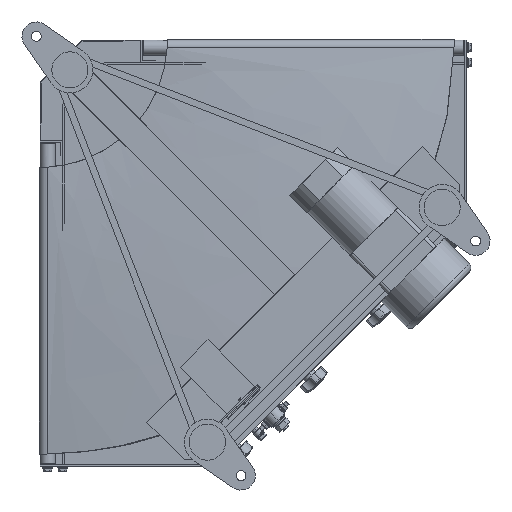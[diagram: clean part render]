
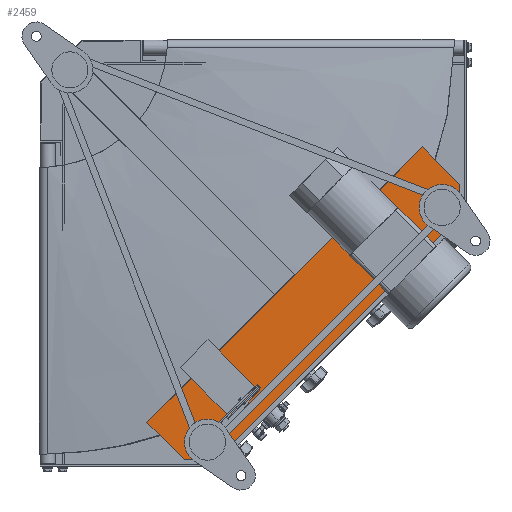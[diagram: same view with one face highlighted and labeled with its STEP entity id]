
A CAD part, front view. The second image highlights one B-rep face of the part: STEP entity #2459.
In plain terms, the highlighted planar face has unit normal (0, -1, 0).
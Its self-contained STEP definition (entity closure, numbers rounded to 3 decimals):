
#2459=ADVANCED_FACE('',(#6116),#6115,.F.);
#6115=PLANE('',#17823);
#6116=FACE_OUTER_BOUND('',#17824,.T.);
#17820=CARTESIAN_POINT('',(131.775,-167.5,-566.847));
#17821=DIRECTION('',(0.,1.,0.));
#17822=DIRECTION('',(0.,0.,1.));
#17823=AXIS2_PLACEMENT_3D('',#17820,#17821,#17822);
#17824=EDGE_LOOP('',(#24305,#24306,#24307,#24308,#24309,#24310));
#24305=ORIENTED_EDGE('',*,*,#28896,.F.);
#24306=ORIENTED_EDGE('',*,*,#28885,.F.);
#24307=ORIENTED_EDGE('',*,*,#28894,.F.);
#24308=ORIENTED_EDGE('',*,*,#28902,.F.);
#24309=ORIENTED_EDGE('',*,*,#28900,.F.);
#24310=ORIENTED_EDGE('',*,*,#28898,.F.);
#28885=EDGE_CURVE('',#35163,#35164,#35165,.T.);
#28894=EDGE_CURVE('',#35225,#35163,#35226,.T.);
#28896=EDGE_CURVE('',#35164,#35238,#35239,.T.);
#28898=EDGE_CURVE('',#35238,#35251,#35252,.T.);
#28900=EDGE_CURVE('',#35251,#35264,#35265,.T.);
#28902=EDGE_CURVE('',#35264,#35225,#35277,.T.);
#35163=VERTEX_POINT('',#52362);
#35164=VERTEX_POINT('',#52363);
#35165=LINE('',#52364,#52365);
#35225=VERTEX_POINT('',#52397);
#35226=LINE('',#52398,#52399);
#35238=VERTEX_POINT('',#52404);
#35239=LINE('',#52405,#52406);
#35251=VERTEX_POINT('',#52411);
#35252=LINE('',#52412,#52413);
#35264=VERTEX_POINT('',#52418);
#35265=LINE('',#52419,#52420);
#35277=LINE('',#52425,#52426);
#52362=CARTESIAN_POINT('',(507.349,-167.5,-141.775));
#52363=CARTESIAN_POINT('',(556.847,-167.5,-191.272));
#52364=CARTESIAN_POINT('',(507.349,-167.5,-141.775));
#52365=VECTOR('',#52366,70.);
#52366=DIRECTION('',(0.707,0.,-0.707));
#52397=CARTESIAN_POINT('',(141.775,-167.5,-507.349));
#52398=CARTESIAN_POINT('',(141.775,-167.5,-507.349));
#52399=VECTOR('',#52400,517.);
#52400=DIRECTION('',(0.707,0.,0.707));
#52404=CARTESIAN_POINT('',(556.847,-167.5,-233.699));
#52405=CARTESIAN_POINT('',(556.847,-167.5,-191.272));
#52406=VECTOR('',#52407,42.426);
#52407=DIRECTION('',(0.,0.,-1.));
#52411=CARTESIAN_POINT('',(233.699,-167.5,-556.847));
#52412=CARTESIAN_POINT('',(556.847,-167.5,-233.699));
#52413=VECTOR('',#52414,457.);
#52414=DIRECTION('',(-0.707,0.,-0.707));
#52418=CARTESIAN_POINT('',(191.272,-167.5,-556.847));
#52419=CARTESIAN_POINT('',(233.699,-167.5,-556.847));
#52420=VECTOR('',#52421,42.426);
#52421=DIRECTION('',(-1.,0.,0.));
#52425=CARTESIAN_POINT('',(191.272,-167.5,-556.847));
#52426=VECTOR('',#52427,70.);
#52427=DIRECTION('',(-0.707,0.,0.707));
